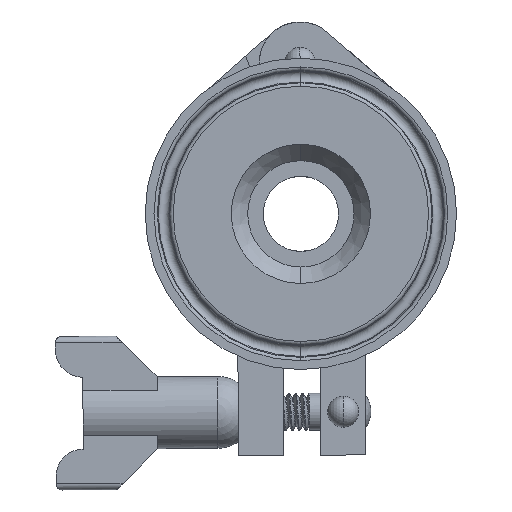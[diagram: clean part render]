
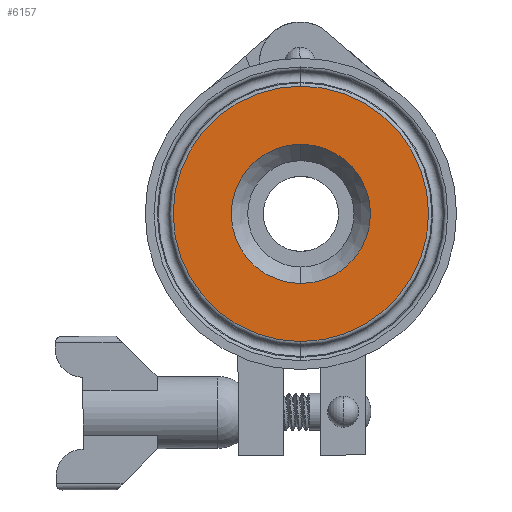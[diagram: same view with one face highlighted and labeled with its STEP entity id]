
A CAD part, front view. The second image highlights one B-rep face of the part: STEP entity #6157.
In plain terms, the highlighted planar face has unit normal (0, -1, 0).
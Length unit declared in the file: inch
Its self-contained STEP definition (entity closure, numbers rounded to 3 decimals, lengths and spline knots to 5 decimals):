
#284 = ORIENTED_EDGE ( 'NONE', *, *, #7433, .T. ) ;
#373 = DIRECTION ( 'NONE',  ( 0., 0., -1. ) ) ;
#718 = ORIENTED_EDGE ( 'NONE', *, *, #6451, .F. ) ;
#1190 = CARTESIAN_POINT ( 'NONE',  ( 0.79879, 0.63548, 3.49708 ) ) ;
#1237 = CARTESIAN_POINT ( 'NONE',  ( 0.79879, 0.63548, 1.43413 ) ) ;
#1469 = CIRCLE ( 'NONE', #10535, 1.03147 ) ;
#1800 = DIRECTION ( 'NONE',  ( 0., -1., 0. ) ) ;
#2380 = EDGE_CURVE ( 'NONE', #5480, #10206, #9298, .T. ) ;
#2596 = CIRCLE ( 'NONE', #10645, 1.03147 ) ;
#3085 = FACE_BOUND ( 'NONE', #8589, .T. ) ;
#3222 = CARTESIAN_POINT ( 'NONE',  ( 0.79879, 0.63548, 2.4656 ) ) ;
#4194 = DIRECTION ( 'NONE',  ( 0., 0., -1. ) ) ;
#4765 = DIRECTION ( 'NONE',  ( 0., 1., 0. ) ) ;
#5299 = AXIS2_PLACEMENT_3D ( 'NONE', #9428, #4765, #11369 ) ;
#5480 = VERTEX_POINT ( 'NONE', #7707 ) ;
#5601 = VERTEX_POINT ( 'NONE', #1190 ) ;
#5651 = FACE_OUTER_BOUND ( 'NONE', #7839, .T. ) ;
#5694 = AXIS2_PLACEMENT_3D ( 'NONE', #7448, #1800, #8396 ) ;
#5814 = DIRECTION ( 'NONE',  ( 0., 0., -1. ) ) ;
#6025 = DIRECTION ( 'NONE',  ( 0., -1., 0. ) ) ;
#6157 = ADVANCED_FACE ( 'NONE', ( #3085, #5651 ), #8482, .F. ) ;
#6255 = DIRECTION ( 'NONE',  ( 0., -1., 0. ) ) ;
#6303 = CARTESIAN_POINT ( 'NONE',  ( 0.79879, 0.63548, 2.4656 ) ) ;
#6451 = EDGE_CURVE ( 'NONE', #10206, #5480, #11269, .T. ) ;
#6489 = ORIENTED_EDGE ( 'NONE', *, *, #2380, .F. ) ;
#6733 = VERTEX_POINT ( 'NONE', #1237 ) ;
#7022 = CARTESIAN_POINT ( 'NONE',  ( 0.79879, 0.63548, 1.9031 ) ) ;
#7433 = EDGE_CURVE ( 'NONE', #5601, #6733, #2596, .T. ) ;
#7448 = CARTESIAN_POINT ( 'NONE',  ( 0.79879, 0.63548, 2.4656 ) ) ;
#7707 = CARTESIAN_POINT ( 'NONE',  ( 0.79879, 0.63548, 3.0281 ) ) ;
#7839 = EDGE_LOOP ( 'NONE', ( #9466, #284 ) ) ;
#8130 = AXIS2_PLACEMENT_3D ( 'NONE', #6303, #6255, #5814 ) ;
#8396 = DIRECTION ( 'NONE',  ( 0., 0., -1. ) ) ;
#8482 = PLANE ( 'NONE',  #5299 ) ;
#8589 = EDGE_LOOP ( 'NONE', ( #718, #6489 ) ) ;
#9298 = CIRCLE ( 'NONE', #8130, 0.5625 ) ;
#9428 = CARTESIAN_POINT ( 'NONE',  ( 0.23629, 0.63548, 2.4656 ) ) ;
#9466 = ORIENTED_EDGE ( 'NONE', *, *, #11900, .T. ) ;
#9809 = DIRECTION ( 'NONE',  ( 0., -1., 0. ) ) ;
#10206 = VERTEX_POINT ( 'NONE', #7022 ) ;
#10535 = AXIS2_PLACEMENT_3D ( 'NONE', #11702, #6025, #373 ) ;
#10645 = AXIS2_PLACEMENT_3D ( 'NONE', #3222, #9809, #4194 ) ;
#11269 = CIRCLE ( 'NONE', #5694, 0.5625 ) ;
#11369 = DIRECTION ( 'NONE',  ( 0., 0., 1. ) ) ;
#11702 = CARTESIAN_POINT ( 'NONE',  ( 0.79879, 0.63548, 2.4656 ) ) ;
#11900 = EDGE_CURVE ( 'NONE', #6733, #5601, #1469, .T. ) ;
